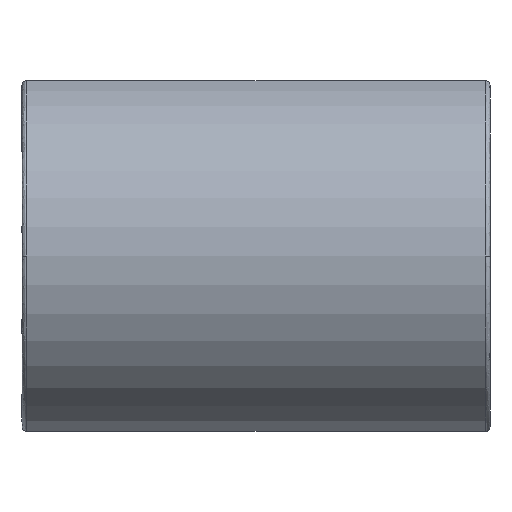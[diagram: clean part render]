
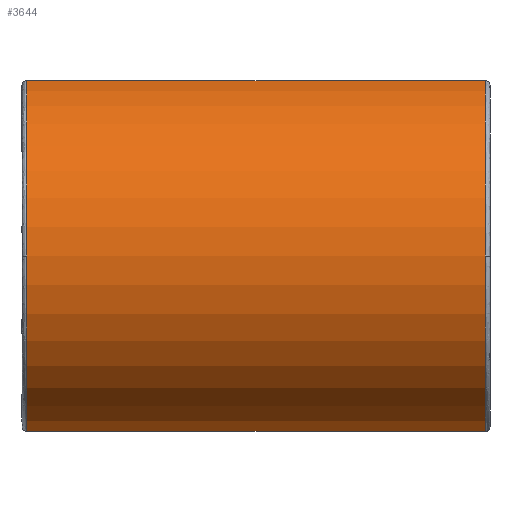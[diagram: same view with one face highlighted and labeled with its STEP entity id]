
A CAD part, front view. The second image highlights one B-rep face of the part: STEP entity #3644.
In plain terms, the highlighted cylindrical face has radius 19.5 mm (diameter 39 mm), a partial arc.
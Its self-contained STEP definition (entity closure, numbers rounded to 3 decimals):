
#164 = VERTEX_POINT ( 'NONE', #847 ) ;
#294 = VECTOR ( 'NONE', #3177, 1000. ) ;
#505 = LINE ( 'NONE', #3597, #3340 ) ;
#730 = CARTESIAN_POINT ( 'NONE',  ( -0.5, -5.356, 18.75 ) ) ;
#847 = CARTESIAN_POINT ( 'NONE',  ( -0.5, -19.5, 0. ) ) ;
#1018 = LINE ( 'NONE', #3303, #294 ) ;
#1098 = CARTESIAN_POINT ( 'NONE',  ( -0.5, 0., 0. ) ) ;
#1102 = DIRECTION ( 'NONE',  ( -1., 0., 0. ) ) ;
#1105 = DIRECTION ( 'NONE',  ( 0., 0., 1. ) ) ;
#1174 = CIRCLE ( 'NONE', #3001, 19.5 ) ;
#1244 = CARTESIAN_POINT ( 'NONE',  ( -0.5, -5.356, -18.75 ) ) ;
#1315 = CIRCLE ( 'NONE', #3016, 19.5 ) ;
#1392 = DIRECTION ( 'NONE',  ( 0., 0., 1. ) ) ;
#1520 = DIRECTION ( 'NONE',  ( -1., 0., 0. ) ) ;
#1541 = CARTESIAN_POINT ( 'NONE',  ( -0.5, 0., 0. ) ) ;
#1679 = ORIENTED_EDGE ( 'NONE', *, *, #2255, .T. ) ;
#1785 = DIRECTION ( 'NONE',  ( 0., 0., 1. ) ) ;
#2075 = VERTEX_POINT ( 'NONE', #2759 ) ;
#2255 = EDGE_CURVE ( 'NONE', #3087, #3197, #1174, .T. ) ;
#2357 = EDGE_CURVE ( 'NONE', #164, #2867, #1315, .T. ) ;
#2385 = CIRCLE ( 'NONE', #3759, 19.5 ) ;
#2409 = VERTEX_POINT ( 'NONE', #1244 ) ;
#2438 = DIRECTION ( 'NONE',  ( 1., 0., 0. ) ) ;
#2452 = CARTESIAN_POINT ( 'NONE',  ( -49.5, 0., 0. ) ) ;
#2497 = CIRCLE ( 'NONE', #3788, 19.5 ) ;
#2566 = ORIENTED_EDGE ( 'NONE', *, *, #2893, .T. ) ;
#2618 = CARTESIAN_POINT ( 'NONE',  ( -49.5, -19.5, 0. ) ) ;
#2640 = ORIENTED_EDGE ( 'NONE', *, *, #2900, .T. ) ;
#2649 = ORIENTED_EDGE ( 'NONE', *, *, #2904, .T. ) ;
#2656 = ORIENTED_EDGE ( 'NONE', *, *, #2357, .T. ) ;
#2759 = CARTESIAN_POINT ( 'NONE',  ( -49.5, -5.356, 18.75 ) ) ;
#2777 = FACE_OUTER_BOUND ( 'NONE', #3397, .T. ) ;
#2867 = VERTEX_POINT ( 'NONE', #730 ) ;
#2892 = EDGE_CURVE ( 'NONE', #2867, #2075, #505, .T. ) ;
#2893 = EDGE_CURVE ( 'NONE', #2075, #3087, #2497, .T. ) ;
#2899 = ORIENTED_EDGE ( 'NONE', *, *, #2892, .T. ) ;
#2900 = EDGE_CURVE ( 'NONE', #3197, #2409, #1018, .T. ) ;
#2904 = EDGE_CURVE ( 'NONE', #2409, #164, #2385, .T. ) ;
#3001 = AXIS2_PLACEMENT_3D ( 'NONE', #2452, #2438, #1785 ) ;
#3016 = AXIS2_PLACEMENT_3D ( 'NONE', #1098, #1102, #1105 ) ;
#3043 = DIRECTION ( 'NONE',  ( 0., 0., 1. ) ) ;
#3064 = DIRECTION ( 'NONE',  ( -1., 0., 0. ) ) ;
#3084 = CARTESIAN_POINT ( 'NONE',  ( -0.5, 0., 0. ) ) ;
#3087 = VERTEX_POINT ( 'NONE', #2618 ) ;
#3130 = CARTESIAN_POINT ( 'NONE',  ( -49.5, -5.356, -18.75 ) ) ;
#3177 = DIRECTION ( 'NONE',  ( 1., 0., 0. ) ) ;
#3197 = VERTEX_POINT ( 'NONE', #3130 ) ;
#3218 = DIRECTION ( 'NONE',  ( 0., 0., 1. ) ) ;
#3246 = DIRECTION ( 'NONE',  ( 1., 0., 0. ) ) ;
#3280 = CARTESIAN_POINT ( 'NONE',  ( -49.5, 0., 0. ) ) ;
#3288 = CYLINDRICAL_SURFACE ( 'NONE', #3418, 19.5 ) ;
#3303 = CARTESIAN_POINT ( 'NONE',  ( -0.5, -5.356, -18.75 ) ) ;
#3340 = VECTOR ( 'NONE', #3450, 1000. ) ;
#3397 = EDGE_LOOP ( 'NONE', ( #2640, #2649, #2656, #2899, #2566, #1679 ) ) ;
#3418 = AXIS2_PLACEMENT_3D ( 'NONE', #1541, #1520, #1392 ) ;
#3450 = DIRECTION ( 'NONE',  ( -1., 0., 0. ) ) ;
#3597 = CARTESIAN_POINT ( 'NONE',  ( -0.5, -5.356, 18.75 ) ) ;
#3644 = ADVANCED_FACE ( 'NONE', ( #2777 ), #3288, .T. ) ;
#3759 = AXIS2_PLACEMENT_3D ( 'NONE', #3084, #3064, #3043 ) ;
#3788 = AXIS2_PLACEMENT_3D ( 'NONE', #3280, #3246, #3218 ) ;
